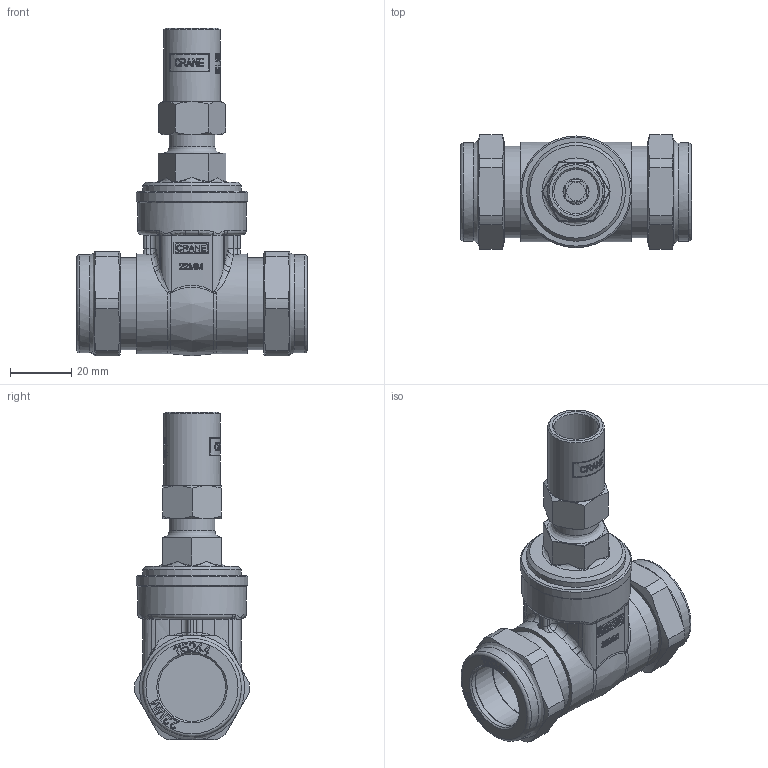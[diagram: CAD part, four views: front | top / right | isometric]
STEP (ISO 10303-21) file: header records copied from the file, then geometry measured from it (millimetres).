
FILE_DESCRIPTION((''),'2;1');
FILE_NAME('P:\Fastrack\53972_CRANE 3D\Gate Valves\Work Space\Lockshield\D255C_22mm\D255C_22mm.stp','2011-03-14T10:39:23',('btaylor'),(''),'Autodesk Inventor 2008','Autodesk Inventor 2008','');
FILE_SCHEMA(('AUTOMOTIVE_DESIGN { 1 0 10303 214 1 1 1 1 }'));
Length unit declared in the file: millimetre
Products named in the file (1): D255C_22mm
Bounding box: 75.53 x 37.46 x 107 mm (x, y, z)
Volume: 80832.6 mm3; surface area: 24316.2 mm2
Topology: 1 solids, 3 shells, 1308 faces, 3445 edges, 2241 vertices
Faces by surface type: plane 561, bspline 529, cylinder 156, cone 48, torus 14
Full cylindrical faces by diameter (mm): 6 x1, 7.9 x1, 8.5 x1, 13.37 x1, 14.5 x1, 15 x1, 18.5 x1, 22 x2, 22.225 x2, 22.25 x2, 28.7 x2, 30 x2, 32.1 x2, 32.3 x1, 32.6 x2, 35.5 x1, 36.5 x1
Entity records: 137320 total; most frequent: CARTESIAN_POINT 108106, ORIENTED_EDGE 6680, DIRECTION 4064, EDGE_CURVE 3340, VERTEX_POINT 2208, VECTOR 1486, LINE 1486, EDGE_LOOP 1476
